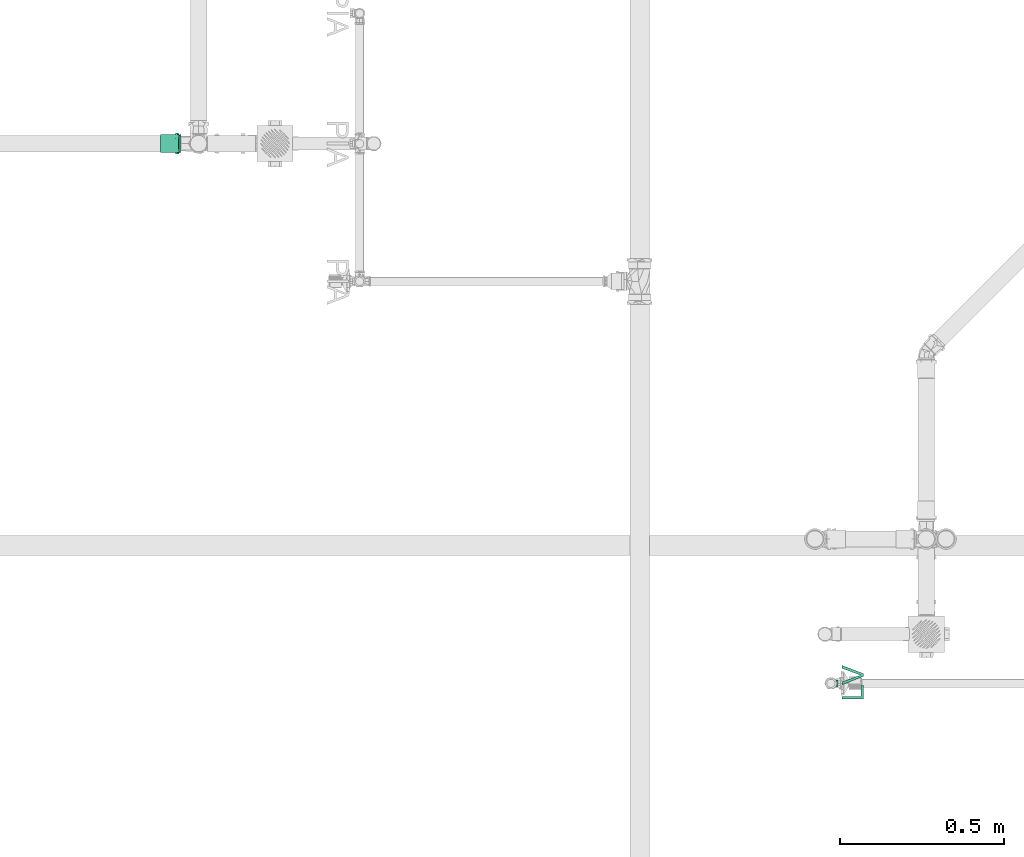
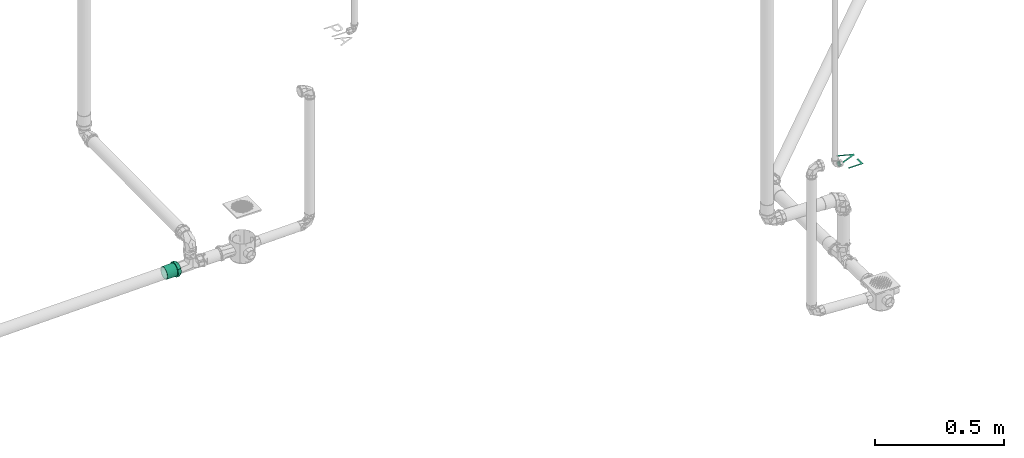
# One storey, part 113 of 589: 1 flow fitting, 1 flow terminal.
"""IFC2X3 building model written with IfcOpenShell, lengths in millimetres."""

from ifc_helpers import new_model, entity, si_unit, converted_unit, derived_unit, direction, frame, origin, place, context, subcontext, project, spatial, face_set, faceted_brep, surface_model, source, transform, mapped, material, type_object, type_shapes, element, save


model = new_model("IFC2X3")

# Units and contexts
model_context = context("Model", 3, precision=0.01, world=origin(), true_north=direction((6.123031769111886e-17, 1.0)))
body_context = subcontext(model_context, "Body", "Model", "MODEL_VIEW")
ifc_project = project(units=[si_unit("LENGTHUNIT", "METRE", prefix="MILLI"), si_unit("AREAUNIT", "SQUARE_METRE"), si_unit("VOLUMEUNIT", "CUBIC_METRE"), converted_unit("PLANEANGLEUNIT", "DEGREE", entity("IfcRatioMeasure", 0.017453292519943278), si_unit("PLANEANGLEUNIT", "RADIAN"), dimensions=[0, 0, 0, 0, 0, 0, 0]), si_unit("MASSUNIT", "GRAM", prefix="KILO"), derived_unit("MASSDENSITYUNIT", [(si_unit("MASSUNIT", "GRAM", prefix="KILO"), 1), (si_unit("LENGTHUNIT", "METRE"), -3)]), derived_unit("IONCONCENTRATIONUNIT", [(si_unit("MASSUNIT", "GRAM", prefix="KILO"), 1), (si_unit("LENGTHUNIT", "METRE"), -3)]), derived_unit("MOMENTOFINERTIAUNIT", [(si_unit("LENGTHUNIT", "METRE"), 4)]), si_unit("TIMEUNIT", "SECOND"), si_unit("FREQUENCYUNIT", "HERTZ"), si_unit("THERMODYNAMICTEMPERATUREUNIT", "DEGREE_CELSIUS"), derived_unit("THERMALTRANSMITTANCEUNIT", [(si_unit("MASSUNIT", "GRAM", prefix="KILO"), 1), (si_unit("THERMODYNAMICTEMPERATUREUNIT", "KELVIN"), -1), (si_unit("TIMEUNIT", "SECOND"), -3)]), derived_unit("THERMALCONDUCTANCEUNIT", [(si_unit("MASSUNIT", "GRAM", prefix="KILO"), 1), (si_unit("THERMODYNAMICTEMPERATUREUNIT", "KELVIN"), -1), (si_unit("TIMEUNIT", "SECOND"), -3), (si_unit("LENGTHUNIT", "METRE"), 1)]), derived_unit("VOLUMETRICFLOWRATEUNIT", [(si_unit("LENGTHUNIT", "METRE"), 3), (si_unit("TIMEUNIT", "SECOND"), -1)]), derived_unit("MASSFLOWRATEUNIT", [(si_unit("MASSUNIT", "GRAM", prefix="KILO"), 1), (si_unit("TIMEUNIT", "SECOND"), -1)]), derived_unit("ROTATIONALFREQUENCYUNIT", [(si_unit("TIMEUNIT", "SECOND"), -1)]), si_unit("ELECTRICCURRENTUNIT", "AMPERE"), si_unit("ELECTRICVOLTAGEUNIT", "VOLT"), si_unit("POWERUNIT", "WATT"), si_unit("FORCEUNIT", "NEWTON", prefix="KILO"), si_unit("ILLUMINANCEUNIT", "LUX"), si_unit("LUMINOUSFLUXUNIT", "LUMEN"), si_unit("LUMINOUSINTENSITYUNIT", "CANDELA"), derived_unit("USERDEFINED", [(si_unit("MASSUNIT", "GRAM", prefix="KILO"), -1), (si_unit("LENGTHUNIT", "METRE"), -2), (si_unit("TIMEUNIT", "SECOND"), 3), (si_unit("LUMINOUSFLUXUNIT", "LUMEN"), 1)]), derived_unit("USERDEFINED", [(si_unit("MASSUNIT", "GRAM", prefix="KILO"), 1), (si_unit("TIMEUNIT", "SECOND"), -3), (si_unit("LENGTHUNIT", "METRE"), 3), (si_unit("ELECTRICCURRENTUNIT", "AMPERE"), -2)]), derived_unit("SOUNDPOWERUNIT", [(si_unit("MASSUNIT", "GRAM", prefix="KILO"), 1), (si_unit("TIMEUNIT", "SECOND"), -3), (si_unit("LENGTHUNIT", "METRE"), 2)]), derived_unit("SOUNDPRESSUREUNIT", [(si_unit("MASSUNIT", "GRAM", prefix="KILO"), 1), (si_unit("LENGTHUNIT", "METRE"), -1), (si_unit("TIMEUNIT", "SECOND"), -2)]), derived_unit("LINEARVELOCITYUNIT", [(si_unit("LENGTHUNIT", "METRE"), 1), (si_unit("TIMEUNIT", "SECOND"), -1)]), si_unit("PRESSUREUNIT", "PASCAL"), derived_unit("USERDEFINED", [(si_unit("MASSUNIT", "GRAM", prefix="KILO"), 1), (si_unit("LENGTHUNIT", "METRE"), -2), (si_unit("TIMEUNIT", "SECOND"), -2)]), derived_unit("LINEARFORCEUNIT", [(si_unit("MASSUNIT", "GRAM", prefix="KILO"), 1), (si_unit("TIMEUNIT", "SECOND"), -2)]), derived_unit("PLANARFORCEUNIT", [(si_unit("MASSUNIT", "GRAM", prefix="KILO"), 1), (si_unit("LENGTHUNIT", "METRE"), -1), (si_unit("TIMEUNIT", "SECOND"), -2)]), derived_unit("SPECIFICHEATCAPACITYUNIT", [(si_unit("THERMODYNAMICTEMPERATUREUNIT", "KELVIN"), -1), (si_unit("LENGTHUNIT", "METRE"), 2), (si_unit("TIMEUNIT", "SECOND"), -2)]), derived_unit("HEATINGVALUEUNIT", [(si_unit("LENGTHUNIT", "METRE"), 2), (si_unit("TIMEUNIT", "SECOND"), -2)]), derived_unit("VAPORPERMEABILITYUNIT", [(si_unit("LENGTHUNIT", "METRE"), -1), (si_unit("TIMEUNIT", "SECOND"), 1)]), derived_unit("DYNAMICVISCOSITYUNIT", [(si_unit("MASSUNIT", "GRAM", prefix="KILO"), 1), (si_unit("TIMEUNIT", "SECOND"), -1), (si_unit("LENGTHUNIT", "METRE"), -1)]), derived_unit("THERMALEXPANSIONCOEFFICIENTUNIT", [(si_unit("THERMODYNAMICTEMPERATUREUNIT", "KELVIN"), -1)]), derived_unit("MODULUSOFELASTICITYUNIT", [(si_unit("MASSUNIT", "GRAM", prefix="KILO"), 1), (si_unit("LENGTHUNIT", "METRE"), -1), (si_unit("TIMEUNIT", "SECOND"), -2)]), derived_unit("ISOTHERMALMOISTURECAPACITYUNIT", [(si_unit("LENGTHUNIT", "METRE"), 3), (si_unit("MASSUNIT", "GRAM", prefix="KILO"), -1)]), derived_unit("MOISTUREDIFFUSIVITYUNIT", [(si_unit("TIMEUNIT", "SECOND"), -1), (si_unit("LENGTHUNIT", "METRE"), 2)])], contexts=[model_context])

# Site, building, storey
site_placement = place(None, origin())
site = spatial("IfcSite", under=ifc_project, at=site_placement, Name="Default", CompositionType="ELEMENT")
building_placement = place(site_placement, origin())
building = spatial("IfcBuilding", under=site, at=building_placement, CompositionType="ELEMENT")
storey_placement = place(building_placement, frame((0.0, 0.0, 100.0)))
storey = spatial("IfcBuildingStorey", under=building, at=storey_placement, Name="TÉRREO", CompositionType="ELEMENT", Elevation=100.0)

# Flow terminal
ifc_material_1 = material(Name="<Unnamed>")
distribution_element_type = type_object("IfcDistributionElementType", Name="Hidráulica_Ponto de Utilização_Uso Provável_Rodrigo MEP:Lavatório LV (Peso 0,3) 60cm do Piso", material=ifc_material_1)
shared_shape_1 = source(origin(), body_context, "Body", "SurfaceModel", [
    surface_model("IfcFaceBasedSurfaceModel", [(0.0, 0.0, 11.595272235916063), (40.81037599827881, 0.0, 11.595272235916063), (40.81037599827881, 8.162075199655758, 11.595272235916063), (8.162075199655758, 8.162075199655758, 11.595272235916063), (8.162075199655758, 65.2966015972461, 11.595272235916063), (0.0, 65.2966015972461, 11.595272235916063), (69.281989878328, 0.0, 11.595272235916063), (77.71507148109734, 0.0, 11.595272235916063), (102.59983590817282, 65.2966015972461, 11.595272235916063), (93.86386479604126, 65.2966015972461, 11.595272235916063), (76.4238056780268, 18.253078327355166, 11.595272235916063), (72.94854709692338, 7.651945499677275, 11.595272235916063), (69.42546385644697, 18.253078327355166, 11.595272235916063), (52.03322939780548, 65.2966015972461, 11.595272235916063), (43.29725828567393, 65.2966015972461, 11.595272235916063), (37.95219179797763, 78.06704158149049, 11.595272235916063), (38.292933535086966, 78.06704158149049, 14.18346268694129), (39.291937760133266, 78.06704158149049, 16.595272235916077), (40.88112398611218, 78.06704158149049, 18.666340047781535), (42.95219179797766, 78.06704158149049, 20.255526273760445), (45.36400134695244, 78.06704158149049, 21.254530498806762), (47.952191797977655, 78.06704158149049, 21.59527223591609), (50.54038224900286, 78.06704158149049, 21.254530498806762), (52.95219179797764, 78.06704158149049, 20.255526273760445), (55.023259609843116, 78.06704158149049, 18.666340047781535), (56.61244583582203, 78.06704158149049, 16.595272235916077), (57.61145006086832, 78.06704158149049, 14.18346268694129), (57.95219179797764, 78.06704158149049, 11.595272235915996), (57.6114500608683, 78.06704158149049, 9.007081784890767), (56.612445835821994, 78.06704158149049, 6.595272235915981), (55.02325960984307, 78.06704158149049, 4.524204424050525), (52.95219179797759, 78.06704158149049, 2.9350181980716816), (50.540382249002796, 78.06704158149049, 1.936013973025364), (47.95219179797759, 78.06704158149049, 1.5952722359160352), (45.36400134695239, 78.06704158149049, 1.936013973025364), (42.952191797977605, 78.06704158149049, 2.9350181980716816), (40.88112398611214, 78.06704158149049, 4.524204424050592), (39.29193776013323, 78.06704158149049, 6.595272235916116), (38.292933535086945, 78.06704158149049, 9.007081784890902), (37.95219179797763, 83.06704158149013, 11.595272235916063), (38.292933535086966, 83.06704158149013, 14.18346268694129), (39.291937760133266, 83.06704158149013, 16.595272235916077), (40.88112398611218, 83.06704158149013, 18.666340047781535), (42.95219179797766, 83.06704158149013, 20.255526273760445), (45.36400134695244, 83.06704158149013, 21.254530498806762), (47.952191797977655, 83.06704158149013, 21.59527223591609), (50.54038224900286, 83.06704158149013, 21.254530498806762), (52.95219179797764, 83.06704158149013, 20.255526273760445), (55.023259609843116, 83.06704158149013, 18.666340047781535), (56.61244583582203, 83.06704158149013, 16.595272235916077), (57.61145006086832, 83.06704158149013, 14.18346268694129), (57.95219179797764, 83.06704158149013, 11.595272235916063), (57.6114500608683, 83.06704158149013, 9.007081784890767), (56.612445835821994, 83.06704158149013, 6.595272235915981), (55.02325960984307, 83.06704158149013, 4.524204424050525), (52.95219179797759, 83.06704158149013, 2.9350181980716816), (50.540382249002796, 83.06704158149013, 1.936013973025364), (47.95219179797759, 83.06704158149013, 1.5952722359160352), (45.36400134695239, 83.06704158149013, 1.936013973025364), (42.952191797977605, 83.06704158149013, 2.9350181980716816), (40.88112398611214, 83.06704158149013, 4.524204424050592), (39.29193776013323, 83.06704158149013, 6.595272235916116), (38.292933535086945, 83.06704158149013, 9.007081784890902)], [face_set([[[0, 1, 2, 3, 4, 5]], [[6, 7, 8, 9, 10, 11, 12, 13, 14]]]), face_set([[[15, 16, 17, 18, 19, 20, 21, 22, 23, 24, 25, 26, 27, 28, 29, 30, 31, 32, 33, 34, 35, 36, 37, 38]], [[39, 40, 41, 42, 43, 44, 45, 46, 47, 48, 49, 50, 51, 52, 53, 54, 55, 56, 57, 58, 59, 60, 61, 62]], [[39, 62, 38, 15]], [[62, 61, 37, 38]], [[60, 59, 35, 36]], [[61, 60, 36, 37]], [[59, 58, 34, 35]], [[33, 34, 58, 57]], [[57, 56, 32, 33]], [[56, 55, 31, 32]], [[54, 53, 29, 30]], [[55, 54, 30, 31]], [[53, 52, 28, 29]], [[27, 28, 52, 51]], [[51, 50, 26, 27]], [[50, 49, 25, 26]], [[48, 47, 23, 24]], [[49, 48, 24, 25]], [[47, 46, 22, 23]], [[21, 22, 46, 45]], [[45, 44, 20, 21]], [[44, 43, 19, 20]], [[42, 41, 17, 18]], [[43, 42, 18, 19]], [[41, 40, 16, 17]], [[15, 16, 40, 39]]])]),
])
type_shapes(distribution_element_type, [shared_shape_1])
flow_terminal_placement = place(storey_placement, frame((4728.92026728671, -997.8287229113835, 588.4047277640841), z_axis=(0.0, 0.0, 1.0), x_axis=(0.0, 1.0, 0.0)))
element("IfcFlowTerminal", 1, at=flow_terminal_placement, inside=storey, type_object=distribution_element_type, material=ifc_material_1, Name="Hidráulica_Ponto de Utilização_Uso Provável_Rodrigo MEP:Lavatório LV (Peso 0,3) 60cm do Piso", ObjectType="Hidráulica_Ponto de Utilização_Uso Provável_Rodrigo MEP:Lavatório LV (Peso 0,3) 60cm do Piso", context=body_context, shape_type="MappedRepresentation", body=[
    mapped(shared_shape_1, transform((0.0, 0.0, 0.0), scale=1.0)),
])

# Flow fitting
ifc_material_2 = material(Name="PVC Série Normal")
pipe_fitting_type = type_object("IfcPipeFittingType", Name="PVC Esgoto_Luva Simples para Conexão_Rodrigo MEP:Standard", PredefinedType="NOTDEFINED", material=ifc_material_2)
shared_shape_2 = source(origin(), body_context, "Body", "Brep", [
    faceted_brep([(16.599999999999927, 15.900000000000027, -27.53960784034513), (16.599999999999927, 22.485995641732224, -22.485995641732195), (16.599999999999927, 13.599999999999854, -23.555890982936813), (16.599999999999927, 7.039878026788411, -26.273182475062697), (16.599999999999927, 8.2304456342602, -30.71644127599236), (16.599999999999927, 19.233304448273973, -19.233304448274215), (16.599999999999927, 27.539607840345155, -15.899999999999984), (16.599999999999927, 23.55589098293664, -13.600000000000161), (16.599999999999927, 26.273182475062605, -7.03987802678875), (16.599999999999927, 30.716441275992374, -8.230445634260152), (16.599999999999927, 27.2, 0.0), (16.599999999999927, 31.8, 0.0), (16.599999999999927, 26.273182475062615, 7.0398780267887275), (16.599999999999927, 30.71644127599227, 8.23044563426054), (16.599999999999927, 23.555890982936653, 13.60000000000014), (16.599999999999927, 27.539607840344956, 15.900000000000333), (16.599999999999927, 19.233304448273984, 19.2333044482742), (16.599999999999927, 22.485995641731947, 22.48599564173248), (16.599999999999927, 13.599999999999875, 23.555890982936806), (16.599999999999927, 15.899999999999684, 27.53960784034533), (16.599999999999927, 7.039878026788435, 26.27318247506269), (16.599999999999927, 8.230445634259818, 30.716441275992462), (16.599999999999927, 0.0, 27.2), (16.599999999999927, 0.0, 31.8), (16.599999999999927, -7.039878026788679, 26.273182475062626), (16.599999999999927, -8.230445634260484, 30.716441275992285), (16.599999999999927, -13.600000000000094, 23.555890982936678), (16.599999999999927, -15.900000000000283, 27.53960784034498), (16.599999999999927, -19.23330444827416, 19.233304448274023), (16.599999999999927, -22.485995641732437, 22.48599564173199), (16.599999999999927, -23.55589098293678, 13.59999999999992), (16.599999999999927, -27.539607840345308, 15.899999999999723), (16.599999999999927, -30.71644127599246, 8.230445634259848), (16.599999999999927, -26.273182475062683, 7.039878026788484), (16.599999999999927, -31.8, 0.0), (16.599999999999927, -27.2, 0.0), (16.599999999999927, -30.71644127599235, -8.23044563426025), (16.599999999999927, -26.273182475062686, -7.03987802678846), (16.599999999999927, -27.53960784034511, -15.90000000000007), (16.599999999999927, -23.55589098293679, -13.599999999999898), (16.599999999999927, -22.485995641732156, -22.485995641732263), (16.599999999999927, -19.233304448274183, -19.233304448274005), (16.599999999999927, -15.899999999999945, -27.53960784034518), (16.599999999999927, -13.600000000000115, -23.555890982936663), (16.599999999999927, -8.230445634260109, -30.716441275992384), (16.599999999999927, -7.039878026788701, -26.273182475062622), (16.599999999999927, 0.0, -31.8), (16.599999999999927, 0.0, -27.2), (6.500000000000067, -10.708108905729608, 29.429219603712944), (6.500000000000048, -24.359073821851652, 20.44200387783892), (6.500000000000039, -27.120498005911, 15.6595386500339), (6.50000000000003, -29.881922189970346, 10.877073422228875), (6.500000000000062, -15.89769721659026, 27.540937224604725), (6.500000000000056, -20.128385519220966, 23.991470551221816), (6.50000000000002, -30.840961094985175, 5.438536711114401), (6.5000000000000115, -31.8, 0.0), (6.50000000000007, -5.518520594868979, 31.317501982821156), (6.500000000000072, 5.526376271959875, 31.316116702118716), (6.50000000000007, 0.00392783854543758, 31.316809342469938), (6.500000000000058, 20.134403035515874, 23.986420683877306), (6.500000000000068, 10.715490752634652, 29.42653259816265), (6.500000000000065, 15.904605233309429, 27.536948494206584), (6.500000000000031, 29.8846497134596, 10.869577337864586), (6.500000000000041, 27.12442527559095, 15.652735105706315), (6.5000000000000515, 24.364200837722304, 20.435892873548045), (6.5000000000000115, 31.8, 0.0), (6.499999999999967, 24.364200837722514, -20.435892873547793), (6.499999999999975, 27.12442527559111, -15.652735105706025), (6.499999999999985, 29.884649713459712, -10.869577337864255), (6.4999999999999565, 15.904605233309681, -27.53694849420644), (6.499999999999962, 20.134403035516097, -23.986420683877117), (6.499999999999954, 10.715490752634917, -29.42653259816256), (6.499999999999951, 5.526376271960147, -31.31611670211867), (6.499999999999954, -5.518520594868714, -31.317501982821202), (6.499999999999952, 0.003927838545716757, -31.316809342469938), (6.499999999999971, -20.128385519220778, -23.99147055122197), (6.499999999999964, -15.897697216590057, -27.54093722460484), (6.499999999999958, -10.70810890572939, -29.42921960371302), (6.499999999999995, -29.881922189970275, -10.877073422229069), (6.499999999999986, -27.12049800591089, -15.659538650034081), (6.499999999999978, -24.359073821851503, -20.442003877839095), (6.500000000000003, -30.840961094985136, -5.438536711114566), (6.499999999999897, -30.696173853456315, -6.259599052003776), (62.0, 13.600000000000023, -23.55589098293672), (62.0, 19.233304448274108, -19.23330444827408), (62.0, 12.499999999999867, -21.650635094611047), (62.0, 6.470476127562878, -24.14814565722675), (62.0, 7.039878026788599, -26.273182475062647), (62.0, 17.677669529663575, -17.677669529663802), (62.0, 23.55589098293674, -13.599999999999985), (62.0, 21.65063509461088, -12.50000000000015), (62.0, 24.148145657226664, -6.470476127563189), (62.0, 26.27318247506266, -7.039878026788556), (62.0, 25.0, 0.0), (62.0, 27.2, 0.0), (62.0, 24.148145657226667, 6.4704761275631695), (62.0, 26.273182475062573, 7.03987802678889), (62.0, 21.650635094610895, 12.500000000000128), (62.0, 23.555890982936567, 13.600000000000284), (62.0, 17.67766952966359, 17.67766952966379), (62.0, 19.233304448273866, 19.233304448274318), (62.0, 12.499999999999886, 21.650635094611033), (62.0, 13.59999999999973, 23.55589098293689), (62.0, 6.4704761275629, 24.14814565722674), (62.0, 7.039878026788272, 26.273182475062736), (62.0, 0.0, 25.0), (62.0, 0.0, 27.2), (62.0, -6.470476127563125, 24.148145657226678), (62.0, -7.039878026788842, 26.273182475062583), (62.0, -12.500000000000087, 21.650635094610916), (62.0, -13.600000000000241, 23.555890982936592), (62.0, -17.677669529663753, 17.677669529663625), (62.0, -19.233304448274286, 19.2333044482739), (62.0, -21.65063509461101, 12.499999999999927), (62.0, -23.555890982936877, 13.599999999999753), (62.0, -26.27318247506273, 7.039878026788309), (62.0, -24.14814565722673, 6.470476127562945), (62.0, -27.2, 0.0), (62.0, -25.0, 0.0), (62.0, -26.27318247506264, -7.0398780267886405), (62.0, -24.148145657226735, -6.470476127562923), (62.0, -23.5558909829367, -13.600000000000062), (62.0, -21.650635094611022, -12.499999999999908), (62.0, -19.233304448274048, -19.233304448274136), (62.0, -17.67766952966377, -17.677669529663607), (62.0, -13.599999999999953, -23.555890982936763), (62.0, -12.500000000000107, -21.650635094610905), (62.0, -7.039878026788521, -26.27318247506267), (62.0, -6.470476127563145, -24.148145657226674), (62.0, 0.0, -27.2), (62.0, 0.0, -25.0), (0.0, 12.499999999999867, -21.650635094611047), (0.0, 19.233304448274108, -19.23330444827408), (0.0, 13.600000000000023, -23.55589098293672), (0.0, 6.470476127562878, -24.14814565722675), (0.0, 17.677669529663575, -17.677669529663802), (0.0, 23.55589098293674, -13.599999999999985), (0.0, 21.65063509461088, -12.50000000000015), (0.0, 24.148145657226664, -6.470476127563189), (0.0, 26.27318247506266, -7.039878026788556), (0.0, 25.0, 0.0), (0.0, 27.2, 0.0), (0.0, 24.148145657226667, 6.4704761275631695), (0.0, 26.273182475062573, 7.03987802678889), (0.0, 21.650635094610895, 12.500000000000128), (0.0, 23.555890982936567, 13.600000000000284), (0.0, 17.67766952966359, 17.67766952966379), (0.0, 19.233304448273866, 19.233304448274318), (0.0, 12.499999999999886, 21.650635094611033), (0.0, 13.59999999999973, 23.55589098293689), (0.0, 6.4704761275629, 24.14814565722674), (0.0, 7.039878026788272, 26.273182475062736), (0.0, 0.0, 25.0), (0.0, 0.0, 27.2), (0.0, -6.470476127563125, 24.148145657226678), (0.0, -7.039878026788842, 26.273182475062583), (0.0, -12.500000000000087, 21.650635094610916), (0.0, -13.600000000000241, 23.555890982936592), (0.0, -17.677669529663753, 17.677669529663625), (0.0, -19.233304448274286, 19.2333044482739), (0.0, -21.65063509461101, 12.499999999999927), (0.0, -23.555890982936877, 13.599999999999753), (0.0, -26.27318247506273, 7.039878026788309), (0.0, -24.14814565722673, 6.470476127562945), (0.0, -27.2, 0.0), (0.0, -25.0, 0.0), (0.0, -26.27318247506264, -7.0398780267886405), (0.0, -24.148145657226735, -6.470476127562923), (0.0, -23.5558909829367, -13.600000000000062), (0.0, -21.650635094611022, -12.499999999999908), (0.0, -19.233304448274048, -19.233304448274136), (0.0, -17.67766952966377, -17.677669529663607), (0.0, -13.599999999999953, -23.555890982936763), (0.0, -12.500000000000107, -21.650635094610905), (0.0, -7.039878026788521, -26.27318247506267), (0.0, -6.470476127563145, -24.148145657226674), (0.0, 0.0, -27.2), (0.0, 0.0, -25.0), (0.0, 7.039878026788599, -26.273182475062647), (5.300000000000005, -26.37968999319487, 4.651830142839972), (5.299999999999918, -26.25584678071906, 5.354122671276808), (5.300000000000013, -25.559379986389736, 9.303660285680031), (5.300000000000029, -20.835434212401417, 17.48498444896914), (5.300000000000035, -17.216732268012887, 20.521006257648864), (5.300000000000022, -23.19740709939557, 13.394322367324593), (5.3000000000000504, -4.720244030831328, 26.787297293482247), (5.300000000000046, -9.15913717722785, 25.172162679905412), (5.299999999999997, -27.2, 0.0), (5.300000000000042, -13.598030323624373, 23.557028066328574), (5.300000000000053, 9.165451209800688, 25.169864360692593), (5.300000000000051, 13.603939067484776, 23.55361632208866), (5.300000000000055, 4.7269633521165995, 26.786112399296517), (5.300000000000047, 17.221879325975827, 20.516686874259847), (5.300000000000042, 20.839819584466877, 17.479757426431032), (5.3000000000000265, 25.56171296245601, 9.297248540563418), (5.299999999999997, 27.2, 0.0), (5.3000000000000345, 23.20076627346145, 13.388502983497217), (5.300000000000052, 0.003359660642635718, 26.786704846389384), (5.299999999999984, 25.56171296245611, -9.29724854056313), (5.299999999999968, 20.839819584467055, -17.47975742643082), (5.2999999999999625, 17.22187932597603, -20.516686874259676), (5.299999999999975, 23.200766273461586, -13.388502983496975), (5.299999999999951, 4.726963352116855, -26.78611239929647), (5.2999999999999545, 9.165451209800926, -25.169864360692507), (5.299999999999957, 13.603939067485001, -23.553616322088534), (5.29999999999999, -26.379689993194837, -4.651830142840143), (5.299999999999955, -9.159137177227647, -25.17216267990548), (5.299999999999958, -13.5980303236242, -23.55702806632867), (5.299999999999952, -4.720244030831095, -26.787297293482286), (5.299999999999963, -17.216732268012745, -20.52100625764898), (5.299999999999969, -20.83543421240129, -17.484984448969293), (5.299999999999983, -25.559379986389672, -9.303660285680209), (5.299999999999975, -23.197407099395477, -13.394322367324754), (5.299999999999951, 0.003359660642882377, -26.78670484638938), (39.0, -25.0, 0.0), (39.0, 25.0, 0.0)], [[[0, 1, 2]], [[0, 2, 3]], [[3, 4, 0]], [[2, 1, 5]], [[6, 5, 1]], [[7, 5, 6]], [[8, 7, 6]], [[8, 6, 9]], [[8, 9, 10]], [[10, 9, 11]], [[12, 10, 11]], [[12, 11, 13]], [[14, 12, 13]], [[14, 13, 15]], [[16, 14, 15]], [[15, 17, 16]], [[17, 18, 16]], [[17, 19, 18]], [[18, 19, 20]], [[21, 20, 19]], [[20, 21, 22]], [[22, 21, 23]], [[22, 23, 24]], [[24, 23, 25]], [[24, 25, 26]], [[27, 26, 25]], [[27, 28, 26]], [[28, 27, 29]], [[30, 28, 29]], [[31, 30, 29]], [[32, 30, 31]], [[33, 30, 32]], [[33, 32, 34]], [[35, 33, 34]], [[36, 35, 34]], [[36, 37, 35]], [[37, 36, 38]], [[39, 37, 38]], [[39, 38, 40]], [[39, 40, 41]], [[40, 42, 41]], [[41, 42, 43]], [[43, 42, 44]], [[44, 45, 43]], [[46, 45, 44]], [[4, 47, 46]], [[46, 47, 45]], [[4, 3, 47]], [[48, 27, 25]], [[31, 29, 49]], [[31, 49, 50, 51]], [[52, 53, 27]], [[32, 51, 54]], [[54, 55, 34]], [[54, 34, 32]], [[25, 56, 48]], [[49, 29, 53]], [[23, 57, 58, 56]], [[59, 19, 17]], [[27, 53, 29]], [[48, 52, 27]], [[31, 51, 32]], [[57, 23, 21]], [[60, 19, 61]], [[15, 62, 63, 64]], [[19, 60, 21]], [[15, 13, 62]], [[17, 64, 59]], [[57, 21, 60]], [[23, 56, 25]], [[15, 64, 17]], [[13, 65, 62]], [[13, 11, 65]], [[59, 61, 19]], [[65, 11, 9]], [[6, 1, 66]], [[6, 66, 67, 68]], [[69, 70, 0]], [[68, 65, 9]], [[71, 69, 0]], [[71, 0, 4]], [[4, 72, 71]], [[66, 1, 70]], [[46, 73, 74, 72]], [[75, 76, 42]], [[0, 70, 1]], [[75, 42, 40]], [[6, 68, 9]], [[73, 46, 44]], [[77, 42, 76]], [[38, 78, 79, 80]], [[42, 77, 44]], [[38, 36, 78]], [[40, 80, 75]], [[73, 44, 77]], [[46, 72, 4]], [[38, 80, 40]], [[36, 81, 82, 78]], [[55, 81, 34]], [[34, 81, 36]], [[83, 84, 85]], [[83, 85, 86]], [[86, 87, 83]], [[85, 84, 88]], [[89, 88, 84]], [[88, 89, 90]], [[90, 89, 91]], [[92, 91, 89]], [[92, 93, 91]], [[93, 92, 94]], [[95, 93, 94]], [[94, 96, 95]], [[95, 96, 97]], [[98, 97, 96]], [[97, 98, 99]], [[99, 98, 100]], [[101, 99, 100]], [[100, 102, 101]], [[101, 102, 103]], [[104, 103, 102]], [[103, 104, 105]], [[105, 104, 106]], [[105, 106, 107]], [[107, 106, 108]], [[107, 108, 109]], [[110, 109, 108]], [[110, 111, 109]], [[111, 110, 112]], [[112, 113, 111]], [[114, 113, 112]], [[113, 114, 115]], [[115, 116, 113]], [[117, 116, 115]], [[117, 118, 116]], [[119, 118, 117]], [[119, 120, 118]], [[120, 119, 121]], [[121, 122, 120]], [[122, 121, 123]], [[122, 123, 124]], [[123, 125, 124]], [[124, 125, 126]], [[126, 125, 127]], [[127, 128, 126]], [[129, 128, 127]], [[87, 130, 129]], [[129, 130, 128]], [[87, 86, 130]], [[131, 132, 133]], [[134, 131, 133]], [[135, 132, 131]], [[132, 135, 136]], [[137, 136, 135]], [[138, 136, 137]], [[136, 138, 139]], [[138, 140, 139]], [[141, 139, 140]], [[141, 140, 142]], [[142, 143, 141]], [[144, 143, 142]], [[143, 144, 145]], [[146, 145, 144]], [[147, 145, 146]], [[147, 146, 148]], [[148, 149, 147]], [[150, 149, 148]], [[149, 150, 151]], [[152, 151, 150]], [[153, 151, 152]], [[154, 153, 152]], [[155, 153, 154]], [[156, 155, 154]], [[155, 156, 157]], [[156, 158, 157]], [[159, 157, 158]], [[158, 160, 159]], [[159, 160, 161]], [[162, 161, 160]], [[160, 163, 162]], [[162, 163, 164]], [[163, 165, 164]], [[164, 165, 166]], [[165, 167, 166]], [[168, 166, 167]], [[167, 169, 168]], [[170, 168, 169]], [[171, 170, 169]], [[171, 172, 170]], [[173, 172, 171]], [[174, 172, 173]], [[173, 175, 174]], [[174, 175, 176]], [[175, 177, 176]], [[177, 134, 178]], [[176, 177, 178]], [[133, 178, 134]], [[162, 179, 180, 181]], [[159, 182, 183]], [[182, 161, 181, 184]], [[185, 155, 186]], [[161, 162, 181]], [[187, 179, 164]], [[183, 188, 157]], [[183, 157, 159]], [[161, 182, 159]], [[189, 190, 149]], [[189, 149, 151]], [[157, 188, 186]], [[157, 186, 155]], [[153, 155, 185]], [[164, 179, 162]], [[151, 191, 189]], [[147, 192, 193]], [[143, 194, 195]], [[194, 145, 193, 196]], [[143, 195, 141]], [[10, 12, 96, 94]], [[149, 192, 147]], [[153, 185, 197, 191]], [[153, 191, 151]], [[145, 147, 193]], [[190, 192, 149]], [[145, 194, 143]], [[139, 195, 198]], [[132, 199, 200]], [[199, 136, 198, 201]], [[202, 178, 203]], [[136, 139, 198]], [[139, 141, 195]], [[92, 8, 10, 94]], [[133, 203, 178]], [[200, 204, 133]], [[136, 199, 132]], [[205, 164, 166]], [[206, 207, 172]], [[133, 204, 203]], [[206, 172, 174]], [[176, 178, 202]], [[200, 133, 132]], [[174, 208, 206]], [[170, 209, 210]], [[166, 211, 205]], [[211, 168, 210, 212]], [[168, 211, 166]], [[172, 209, 170]], [[176, 202, 213, 208]], [[176, 208, 174]], [[168, 170, 210]], [[207, 209, 172]], [[205, 187, 164]], [[116, 118, 214, 165, 163]], [[156, 109, 111, 158]], [[111, 113, 160, 158]], [[113, 116, 163, 160]], [[107, 109, 156, 154]], [[154, 152, 105, 107]], [[103, 105, 152, 150]], [[103, 150, 148, 101]], [[142, 95, 97, 144]], [[97, 99, 146, 144]], [[99, 101, 148, 146]], [[93, 95, 142, 140, 215]], [[215, 140, 138, 91, 93]], [[135, 131, 85, 88]], [[90, 91, 138, 137]], [[90, 137, 135, 88]], [[86, 85, 131, 134]], [[134, 177, 130, 86]], [[128, 130, 177, 175]], [[128, 175, 173, 126]], [[167, 120, 122, 169]], [[122, 124, 171, 169]], [[124, 126, 173, 171]], [[118, 120, 167, 165, 214]], [[211, 78, 82, 81, 55, 187, 205]], [[79, 78, 211, 212, 210, 80]], [[75, 80, 210, 209, 207, 76]], [[207, 206, 208, 73, 77, 76]], [[213, 202, 72, 74, 73, 208]], [[203, 204, 69, 71, 72, 202]], [[198, 195, 65, 68]], [[199, 201, 198, 68, 67, 66]], [[204, 200, 199, 66, 70, 69]], [[195, 194, 62, 65]], [[197, 185, 56, 58, 57, 191]], [[63, 62, 194, 196, 193, 64]], [[57, 60, 61, 190, 189, 191]], [[193, 192, 190, 61, 59, 64]], [[48, 56, 185, 186, 188, 52]], [[187, 55, 54, 51, 181, 180, 179]], [[182, 184, 181, 51, 50, 49]], [[188, 183, 182, 49, 53, 52]], [[30, 33, 115, 114]], [[117, 115, 33, 35]], [[26, 28, 112, 110]], [[114, 112, 28, 30]], [[24, 26, 110, 108]], [[108, 106, 22, 24]], [[18, 20, 104, 102]], [[100, 16, 18, 102]], [[12, 14, 98, 96]], [[100, 98, 14, 16]], [[104, 20, 22, 106]], [[89, 7, 8, 92]], [[83, 87, 3, 2]], [[7, 89, 84, 5]], [[83, 2, 5, 84]], [[87, 129, 47, 3]], [[43, 45, 127, 125]], [[123, 41, 43, 125]], [[37, 39, 121, 119]], [[123, 121, 39, 41]], [[35, 37, 119, 117]], [[127, 45, 47, 129]]]),
])
type_shapes(pipe_fitting_type, [shared_shape_2])
flow_fitting_placement = place(storey_placement, frame((2645.895214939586, 697.7290075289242, -191.97450276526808), z_axis=(0.0, 1.0, 0.0), x_axis=(-0.999800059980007, 0.0, -0.01999600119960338)))
element("IfcFlowFitting", 2, at=flow_fitting_placement, inside=storey, type_object=pipe_fitting_type, material=ifc_material_2, Name="PVC Esgoto_Luva Simples para Conexão_Rodrigo MEP:Standard", ObjectType="PVC Esgoto_Luva Simples para Conexão_Rodrigo MEP:Standard", context=body_context, shape_type="MappedRepresentation", body=[
    mapped(shared_shape_2, transform((0.0, 0.0, 0.0), scale=1.0)),
])

save(model, "model.ifc")
